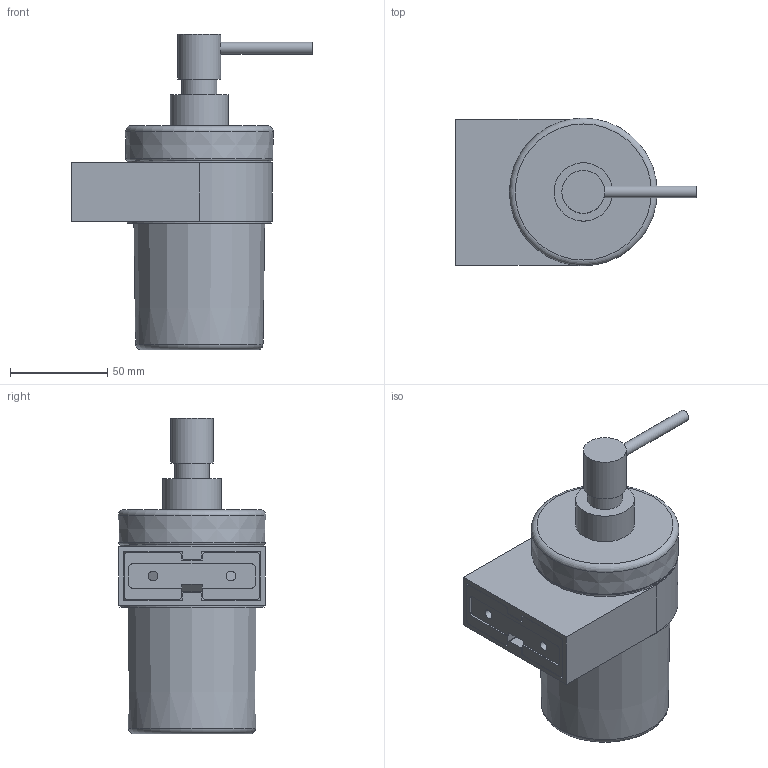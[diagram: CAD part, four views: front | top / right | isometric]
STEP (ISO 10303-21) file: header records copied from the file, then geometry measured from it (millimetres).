
FILE_DESCRIPTION(/* description */ (''),/* implementation_level */ '2;1');
FILE_NAME(/* name */ '4111 648',/* time_stamp */ '2019-08-20T09:54:05+08:00',/* author */ (''),/* organization */ (''),/* preprocessor_version */ 'ST-DEVELOPER v9',/* originating_system */ 'UGS - NX 4.0',/* authorisation */ '');
FILE_SCHEMA (('CONFIG_CONTROL_DESIGN'));
Length unit declared in the file: millimetre
Products named in the file (1): w337D95ig6b
Bounding box: 123.5 x 75.89 x 162 mm (x, y, z)
Volume: 176356.1 mm3; surface area: 126549.5 mm2
Topology: 8 solids, 9 shells, 142 faces, 417 edges, 310 vertices
Faces by surface type: plane 76, cylinder 43, bspline 11, torus 8, cone 4
Full cylindrical faces by diameter (mm): 4.8 x2, 5.2 x1, 6 x2, 17 x1, 18 x1, 22 x1, 30 x1, 69.4 x1, 71 x2, 74 x2
Entity records: 6931 total; most frequent: CARTESIAN_POINT 3311, ORIENTED_EDGE 758, DIRECTION 627, EDGE_CURVE 379, VERTEX_POINT 301, AXIS2_PLACEMENT_3D 233, EDGE_LOOP 198, LINE 161
